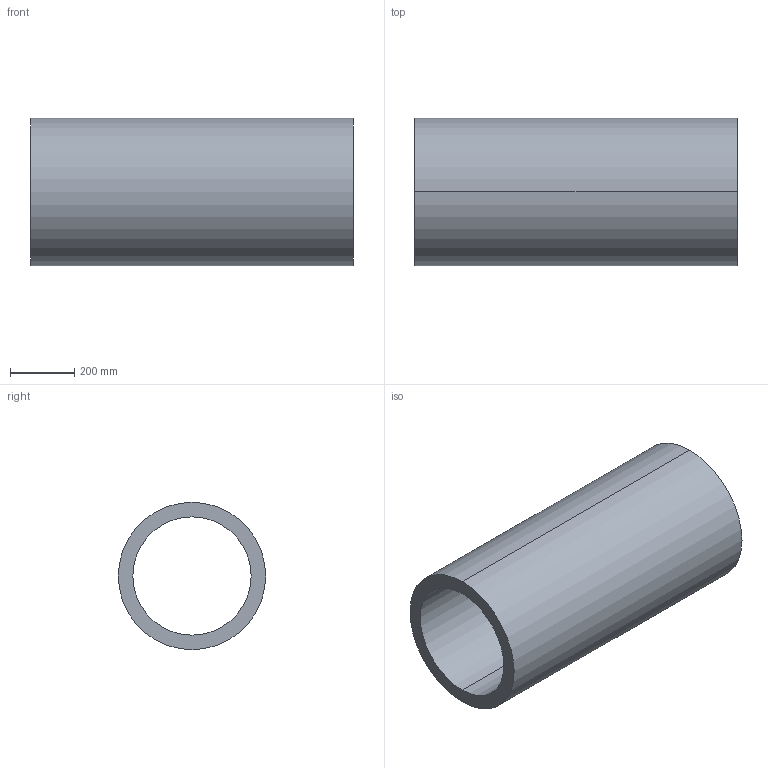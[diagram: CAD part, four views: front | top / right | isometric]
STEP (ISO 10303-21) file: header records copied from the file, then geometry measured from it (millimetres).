
FILE_DESCRIPTION (( 'STEP AP214' ), '1' );
FILE_NAME ('Sch160-450A.STEP', '2022-04-22T02:48:52', ( 'ASIS User' ), ( 'ASIS User' ), 'SwSTEP 2.0', 'SolidWorks 2022', '' );
FILE_SCHEMA (( 'AUTOMOTIVE_DESIGN' ));
Length unit declared in the file: millimetre
Products named in the file (1): Sch160-450A
Bounding box: 1000 x 457.2 x 457.2 mm (x, y, z)
Volume: 58503995 mm3; surface area: 2705680.3 mm2
Topology: 1 solids, 1 shells, 6 faces, 12 edges, 8 vertices
Faces by surface type: cylinder 4, plane 2
Entity records: 202 total; most frequent: DIRECTION 34, CARTESIAN_POINT 27, ORIENTED_EDGE 24, AXIS2_PLACEMENT_3D 15, EDGE_CURVE 12, VERTEX_POINT 8, CIRCLE 8, EDGE_LOOP 8
